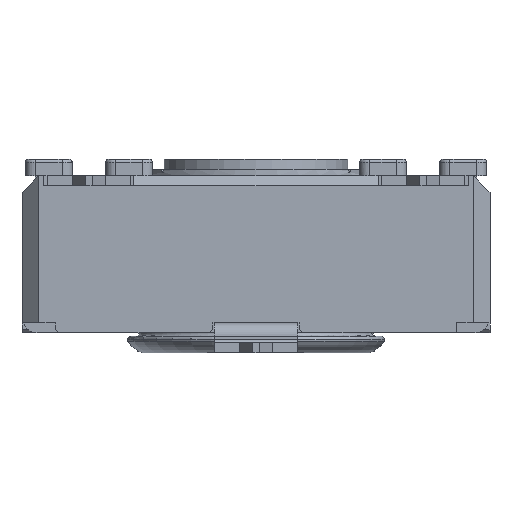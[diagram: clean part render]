
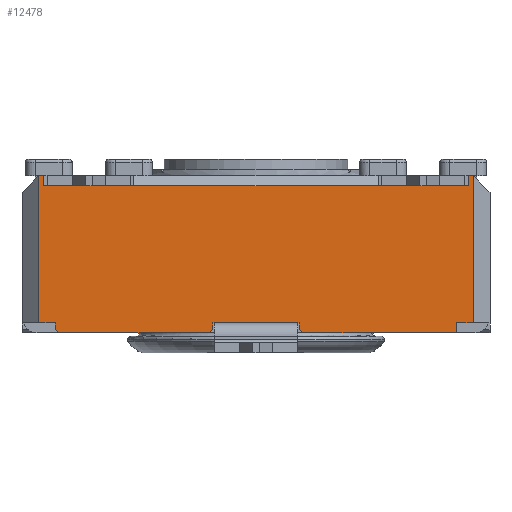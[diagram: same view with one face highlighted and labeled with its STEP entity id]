
A CAD part, front view. The second image highlights one B-rep face of the part: STEP entity #12478.
In plain terms, the highlighted planar face has unit normal (0, -1, 0).
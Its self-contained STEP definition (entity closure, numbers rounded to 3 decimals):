
#192=PLANE('',#13187);
#691=FACE_OUTER_BOUND('',#1356,.T.);
#1356=EDGE_LOOP('',(#8649,#8650,#8651,#8652,#8653,#8654,#8655,#8656,#8657,
#8658,#8659,#8660,#8661,#8662,#8663,#8664,#8665,#8666,#8667,#8668,#8669,
#8670,#8671,#8672,#8673,#8674,#8675));
#2072=LINE('',#17824,#3549);
#2084=LINE('',#17856,#3561);
#2089=LINE('',#17866,#3566);
#2147=LINE('',#17985,#3624);
#2152=LINE('',#17994,#3629);
#2178=LINE('',#18058,#3655);
#2179=LINE('',#18060,#3656);
#2180=LINE('',#18062,#3657);
#2181=LINE('',#18063,#3658);
#2182=LINE('',#18065,#3659);
#2183=LINE('',#18067,#3660);
#2184=LINE('',#18069,#3661);
#2185=LINE('',#18071,#3662);
#2186=LINE('',#18072,#3663);
#2187=LINE('',#18074,#3664);
#2188=LINE('',#18076,#3665);
#2189=LINE('',#18078,#3666);
#2190=LINE('',#18080,#3667);
#2191=LINE('',#18082,#3668);
#2192=LINE('',#18084,#3669);
#2193=LINE('',#18086,#3670);
#2194=LINE('',#18088,#3671);
#2195=LINE('',#18090,#3672);
#2196=LINE('',#18091,#3673);
#2197=LINE('',#18093,#3674);
#2198=LINE('',#18095,#3675);
#2199=LINE('',#18096,#3676);
#3549=VECTOR('',#14294,10.);
#3561=VECTOR('',#14330,10.);
#3566=VECTOR('',#14335,10.);
#3624=VECTOR('',#14407,10.);
#3629=VECTOR('',#14416,10.);
#3655=VECTOR('',#14464,10.);
#3656=VECTOR('',#14465,10.);
#3657=VECTOR('',#14466,10.);
#3658=VECTOR('',#14467,10.);
#3659=VECTOR('',#14468,10.);
#3660=VECTOR('',#14469,10.);
#3661=VECTOR('',#14470,10.);
#3662=VECTOR('',#14471,10.);
#3663=VECTOR('',#14472,10.);
#3664=VECTOR('',#14473,10.);
#3665=VECTOR('',#14474,10.);
#3666=VECTOR('',#14475,10.);
#3667=VECTOR('',#14476,10.);
#3668=VECTOR('',#14477,10.);
#3669=VECTOR('',#14478,10.);
#3670=VECTOR('',#14479,10.);
#3671=VECTOR('',#14480,10.);
#3672=VECTOR('',#14481,10.);
#3673=VECTOR('',#14482,10.);
#3674=VECTOR('',#14483,10.);
#3675=VECTOR('',#14484,10.);
#3676=VECTOR('',#14485,10.);
#5323=VERTEX_POINT('',#17803);
#5331=VERTEX_POINT('',#17823);
#5339=VERTEX_POINT('',#17855);
#5343=VERTEX_POINT('',#17863);
#5344=VERTEX_POINT('',#17865);
#5397=VERTEX_POINT('',#17982);
#5398=VERTEX_POINT('',#17984);
#5399=VERTEX_POINT('',#17991);
#5400=VERTEX_POINT('',#17993);
#5427=VERTEX_POINT('',#18057);
#5428=VERTEX_POINT('',#18059);
#5429=VERTEX_POINT('',#18061);
#5430=VERTEX_POINT('',#18064);
#5431=VERTEX_POINT('',#18066);
#5432=VERTEX_POINT('',#18068);
#5433=VERTEX_POINT('',#18070);
#5434=VERTEX_POINT('',#18073);
#5435=VERTEX_POINT('',#18075);
#5436=VERTEX_POINT('',#18077);
#5437=VERTEX_POINT('',#18079);
#5438=VERTEX_POINT('',#18081);
#5439=VERTEX_POINT('',#18083);
#5440=VERTEX_POINT('',#18085);
#5441=VERTEX_POINT('',#18087);
#5442=VERTEX_POINT('',#18089);
#5443=VERTEX_POINT('',#18092);
#5444=VERTEX_POINT('',#18094);
#6561=EDGE_CURVE('',#5323,#5331,#2072,.T.);
#6577=EDGE_CURVE('',#5339,#5323,#2084,.T.);
#6582=EDGE_CURVE('',#5344,#5343,#2089,.T.);
#6642=EDGE_CURVE('',#5398,#5397,#2147,.T.);
#6647=EDGE_CURVE('',#5400,#5399,#2152,.T.);
#6679=EDGE_CURVE('',#5397,#5427,#2178,.T.);
#6680=EDGE_CURVE('',#5427,#5428,#2179,.T.);
#6681=EDGE_CURVE('',#5428,#5429,#2180,.T.);
#6682=EDGE_CURVE('',#5344,#5429,#2181,.T.);
#6683=EDGE_CURVE('',#5343,#5430,#2182,.T.);
#6684=EDGE_CURVE('',#5431,#5430,#2183,.T.);
#6685=EDGE_CURVE('',#5431,#5432,#2184,.T.);
#6686=EDGE_CURVE('',#5433,#5432,#2185,.T.);
#6687=EDGE_CURVE('',#5339,#5433,#2186,.T.);
#6688=EDGE_CURVE('',#5331,#5434,#2187,.T.);
#6689=EDGE_CURVE('',#5434,#5435,#2188,.T.);
#6690=EDGE_CURVE('',#5436,#5435,#2189,.T.);
#6691=EDGE_CURVE('',#5436,#5437,#2190,.T.);
#6692=EDGE_CURVE('',#5437,#5438,#2191,.T.);
#6693=EDGE_CURVE('',#5438,#5439,#2192,.T.);
#6694=EDGE_CURVE('',#5440,#5439,#2193,.T.);
#6695=EDGE_CURVE('',#5440,#5441,#2194,.T.);
#6696=EDGE_CURVE('',#5441,#5442,#2195,.T.);
#6697=EDGE_CURVE('',#5442,#5400,#2196,.T.);
#6698=EDGE_CURVE('',#5399,#5443,#2197,.T.);
#6699=EDGE_CURVE('',#5444,#5443,#2198,.T.);
#6700=EDGE_CURVE('',#5444,#5398,#2199,.T.);
#8649=ORIENTED_EDGE('',*,*,#6642,.T.);
#8650=ORIENTED_EDGE('',*,*,#6679,.T.);
#8651=ORIENTED_EDGE('',*,*,#6680,.T.);
#8652=ORIENTED_EDGE('',*,*,#6681,.T.);
#8653=ORIENTED_EDGE('',*,*,#6682,.F.);
#8654=ORIENTED_EDGE('',*,*,#6582,.T.);
#8655=ORIENTED_EDGE('',*,*,#6683,.T.);
#8656=ORIENTED_EDGE('',*,*,#6684,.F.);
#8657=ORIENTED_EDGE('',*,*,#6685,.T.);
#8658=ORIENTED_EDGE('',*,*,#6686,.F.);
#8659=ORIENTED_EDGE('',*,*,#6687,.F.);
#8660=ORIENTED_EDGE('',*,*,#6577,.T.);
#8661=ORIENTED_EDGE('',*,*,#6561,.T.);
#8662=ORIENTED_EDGE('',*,*,#6688,.T.);
#8663=ORIENTED_EDGE('',*,*,#6689,.T.);
#8664=ORIENTED_EDGE('',*,*,#6690,.F.);
#8665=ORIENTED_EDGE('',*,*,#6691,.T.);
#8666=ORIENTED_EDGE('',*,*,#6692,.T.);
#8667=ORIENTED_EDGE('',*,*,#6693,.T.);
#8668=ORIENTED_EDGE('',*,*,#6694,.F.);
#8669=ORIENTED_EDGE('',*,*,#6695,.T.);
#8670=ORIENTED_EDGE('',*,*,#6696,.T.);
#8671=ORIENTED_EDGE('',*,*,#6697,.T.);
#8672=ORIENTED_EDGE('',*,*,#6647,.T.);
#8673=ORIENTED_EDGE('',*,*,#6698,.T.);
#8674=ORIENTED_EDGE('',*,*,#6699,.F.);
#8675=ORIENTED_EDGE('',*,*,#6700,.T.);
#12478=ADVANCED_FACE('',(#691),#192,.T.);
#13187=AXIS2_PLACEMENT_3D('',#18056,#14462,#14463);
#14294=DIRECTION('',(1.,0.,0.));
#14330=DIRECTION('',(1.,0.,0.));
#14335=DIRECTION('',(1.,0.,0.));
#14407=DIRECTION('',(-1.,0.,0.));
#14416=DIRECTION('',(-1.,0.,0.));
#14462=DIRECTION('center_axis',(0.,-1.,0.));
#14463=DIRECTION('ref_axis',(0.,0.,-1.));
#14464=DIRECTION('',(-1.,0.,0.));
#14465=DIRECTION('',(0.,0.,1.));
#14466=DIRECTION('',(-1.,0.,0.));
#14467=DIRECTION('',(0.,0.,1.));
#14468=DIRECTION('',(0.,0.,-1.));
#14469=DIRECTION('',(-0.707,0.,0.707));
#14470=DIRECTION('',(1.,0.,0.));
#14471=DIRECTION('',(-0.707,0.,-0.707));
#14472=DIRECTION('',(0.,0.,-1.));
#14473=DIRECTION('',(1.,0.,0.));
#14474=DIRECTION('',(0.,0.,-1.));
#14475=DIRECTION('',(-0.707,0.,0.707));
#14476=DIRECTION('',(1.,0.,0.));
#14477=DIRECTION('',(0.,0.,1.));
#14478=DIRECTION('',(1.,0.,0.));
#14479=DIRECTION('',(0.,0.,-1.));
#14480=DIRECTION('',(-1.,0.,0.));
#14481=DIRECTION('',(0.,0.,-1.));
#14482=DIRECTION('',(-1.,0.,0.));
#14483=DIRECTION('',(-1.,0.,0.));
#14484=DIRECTION('',(1.,0.,0.));
#14485=DIRECTION('',(-1.,0.,0.));
#17803=CARTESIAN_POINT('',(-8.717,-9.898,0.));
#17823=CARTESIAN_POINT('',(-6.217,-9.898,0.));
#17824=CARTESIAN_POINT('',(-14.467,-9.898,0.));
#17855=CARTESIAN_POINT('',(-8.767,-9.898,0.));
#17856=CARTESIAN_POINT('',(-14.467,-9.898,0.));
#17863=CARTESIAN_POINT('',(-13.467,-9.898,0.));
#17865=CARTESIAN_POINT('',(-13.967,-9.898,0.));
#17866=CARTESIAN_POINT('',(-7.245,-9.898,0.));
#17982=CARTESIAN_POINT('',(-13.717,-9.898,4.1));
#17984=CARTESIAN_POINT('',(-11.217,-9.898,4.1));
#17985=CARTESIAN_POINT('',(-6.467,-9.898,4.1));
#17991=CARTESIAN_POINT('',(-3.717,-9.898,4.1));
#17993=CARTESIAN_POINT('',(-1.217,-9.898,4.1));
#17994=CARTESIAN_POINT('',(-1.467,-9.898,4.1));
#18056=CARTESIAN_POINT('Origin',(-0.467,-9.898,0.));
#18057=CARTESIAN_POINT('',(-13.817,-9.898,4.1));
#18058=CARTESIAN_POINT('',(-3.944,-9.898,4.1));
#18059=CARTESIAN_POINT('',(-13.817,-9.898,4.4));
#18060=CARTESIAN_POINT('',(-13.817,-9.898,2.2));
#18061=CARTESIAN_POINT('',(-13.967,-9.898,4.4));
#18062=CARTESIAN_POINT('',(-14.467,-9.898,4.4));
#18063=CARTESIAN_POINT('',(-13.967,-9.898,0.));
#18064=CARTESIAN_POINT('',(-13.467,-9.898,-0.2));
#18065=CARTESIAN_POINT('',(-13.467,-9.898,-0.15));
#18066=CARTESIAN_POINT('',(-13.367,-9.898,-0.3));
#18067=CARTESIAN_POINT('',(-10.242,-9.898,-3.425));
#18068=CARTESIAN_POINT('',(-8.867,-9.898,-0.3));
#18069=CARTESIAN_POINT('',(-0.467,-9.898,-0.3));
#18070=CARTESIAN_POINT('',(-8.767,-9.898,-0.2));
#18071=CARTESIAN_POINT('',(-6.667,-9.898,1.9));
#18072=CARTESIAN_POINT('',(-8.767,-9.898,0.));
#18073=CARTESIAN_POINT('',(-6.167,-9.898,0.));
#18074=CARTESIAN_POINT('',(-14.467,-9.898,0.));
#18075=CARTESIAN_POINT('',(-6.167,-9.898,-0.2));
#18076=CARTESIAN_POINT('',(-6.167,-9.898,0.));
#18077=CARTESIAN_POINT('',(-6.067,-9.898,-0.3));
#18078=CARTESIAN_POINT('',(-4.767,-9.898,-1.6));
#18079=CARTESIAN_POINT('',(-1.467,-9.898,-0.3));
#18080=CARTESIAN_POINT('',(-0.467,-9.898,-0.3));
#18081=CARTESIAN_POINT('',(-1.467,-9.898,0.));
#18082=CARTESIAN_POINT('',(-1.467,-9.898,-0.15));
#18083=CARTESIAN_POINT('',(-0.967,-9.898,0.));
#18084=CARTESIAN_POINT('',(-0.646,-9.898,0.));
#18085=CARTESIAN_POINT('',(-0.967,-9.898,4.4));
#18086=CARTESIAN_POINT('',(-0.967,-9.898,0.));
#18087=CARTESIAN_POINT('',(-1.117,-9.898,4.4));
#18088=CARTESIAN_POINT('',(-14.467,-9.898,4.4));
#18089=CARTESIAN_POINT('',(-1.117,-9.898,4.1));
#18090=CARTESIAN_POINT('',(-1.117,-9.898,2.2));
#18091=CARTESIAN_POINT('',(-1.862,-9.898,4.1));
#18092=CARTESIAN_POINT('',(-3.817,-9.898,4.1));
#18093=CARTESIAN_POINT('',(-1.862,-9.898,4.1));
#18094=CARTESIAN_POINT('',(-11.117,-9.898,4.1));
#18095=CARTESIAN_POINT('',(-3.967,-9.898,4.1));
#18096=CARTESIAN_POINT('',(-3.944,-9.898,4.1));
